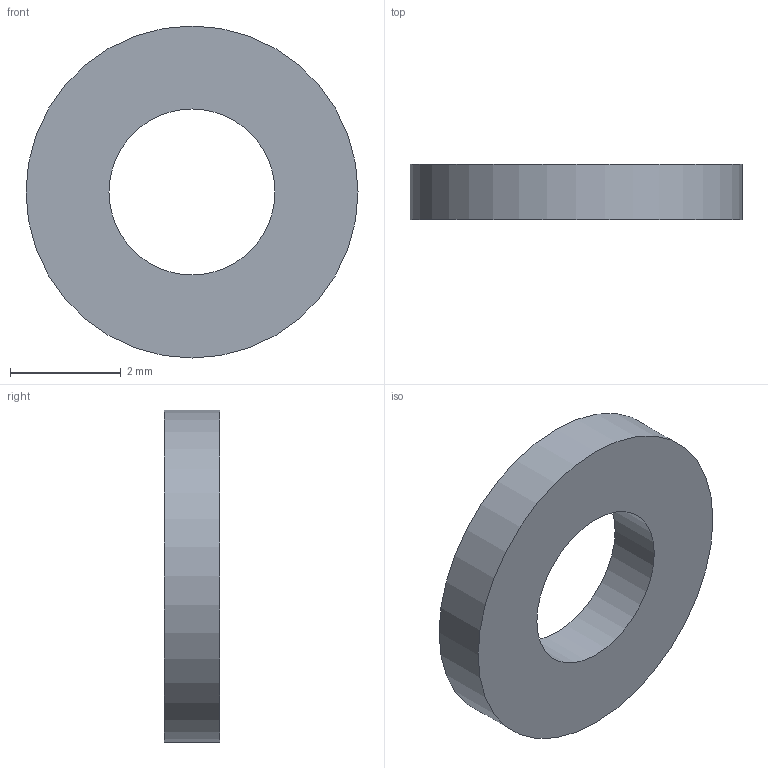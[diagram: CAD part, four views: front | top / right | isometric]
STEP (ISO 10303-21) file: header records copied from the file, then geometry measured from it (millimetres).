
FILE_DESCRIPTION(/* description */ ('','CAx-IF Rec.Pracs.---Representation and Presentation of Product Manufacturing Information (PMI)---4.0---2014-10-13'),/* implementation_level */ '2;1');
FILE_NAME(/* name */ 'Precision Shim - 3mm - 1mm.step',/* time_stamp */ '2024-11-28T00:16:07+02:00',/* author */ (''),/* organization */ (''),/* preprocessor_version */ 'ST-DEVELOPER v20',/* originating_system */ 'Autodesk Translation Framework v13.20.0.188',/* authorisation */ '');
FILE_SCHEMA (('AP242_MANAGED_MODEL_BASED_3D_ENGINEERING_MIM_LF { 1 0 10303 442 1 1 4 }'));
Length unit declared in the file: millimetre
Products named in the file (1): Precision Shim - 3mm - 1mm
Bounding box: 6 x 1 x 6 mm (x, y, z)
Volume: 21.2 mm3; surface area: 70.7 mm2
Topology: 1 solids, 1 shells, 4 faces, 6 edges, 4 vertices
Faces by surface type: cylinder 2, plane 2
Full cylindrical faces by diameter (mm): 3 x1, 6 x1
Entity records: 131 total; most frequent: DIRECTION 20, CARTESIAN_POINT 15, ORIENTED_EDGE 12, AXIS2_PLACEMENT_3D 9, EDGE_LOOP 6, EDGE_CURVE 6, FACE_OUTER_BOUND 4, CIRCLE 4
